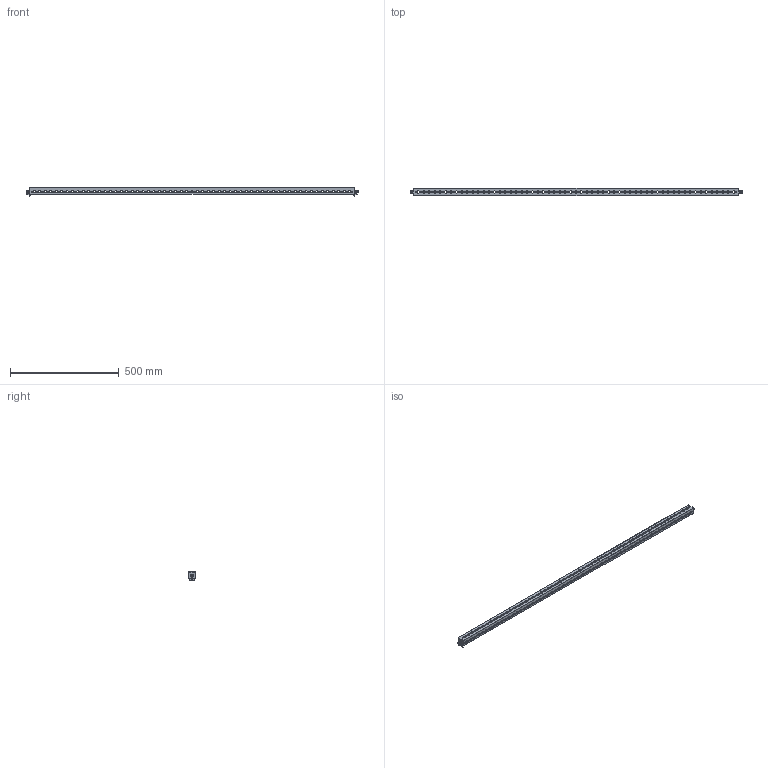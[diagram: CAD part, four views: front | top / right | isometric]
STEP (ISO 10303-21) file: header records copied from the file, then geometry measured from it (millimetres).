
FILE_DESCRIPTION(('Open CASCADE Model'),'2;1');
FILE_NAME('Open CASCADE Shape Model','2025-02-21T11:48:34',('Author'),( 'Open CASCADE'),'Open CASCADE STEP processor 7.8','Open CASCADE 7.8' ,'Unknown');
FILE_SCHEMA(('AUTOMOTIVE_DESIGN { 1 0 10303 214 1 1 1 1 }'));
Length unit declared in the file: millimetre
Products named in the file (5): Compound1; Solid1; Solid2; Solid3; Solid4
Assembly tree (7 placements, depth 2):
  Compound1
    Solid1
    Solid2  x2
    Solid3  x2
    Solid4  x2
Bounding box: 1527.6 x 34 x 38.5 mm (x, y, z)
Volume: 178407.7 mm3; surface area: 257778.7 mm2
Topology: 9 solids, 9 shells, 3454 faces, 10218 edges, 6780 vertices
Faces by surface type: cylinder 2036, plane 1278, bspline 80, torus 32, cone 24, sphere 4
Full cylindrical faces by diameter (mm): 4.2 x180, 5 x4, 5.5 x2, 6 x2, 6.5 x4, 8.3 x2, 9.5 x2, 12 x2
Entity records: 114857 total; most frequent: CARTESIAN_POINT 22442, DIRECTION 19930, ORIENTED_EDGE 19430, EDGE_CURVE 9715, AXIS2_PLACEMENT_3D 7335, VERTEX_POINT 6472, LINE 5260, VECTOR 5260
